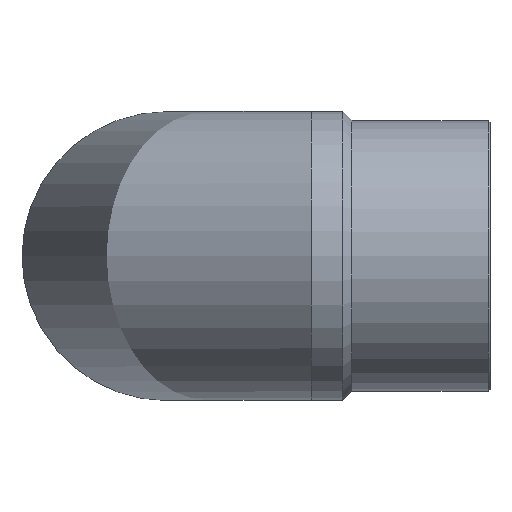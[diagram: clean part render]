
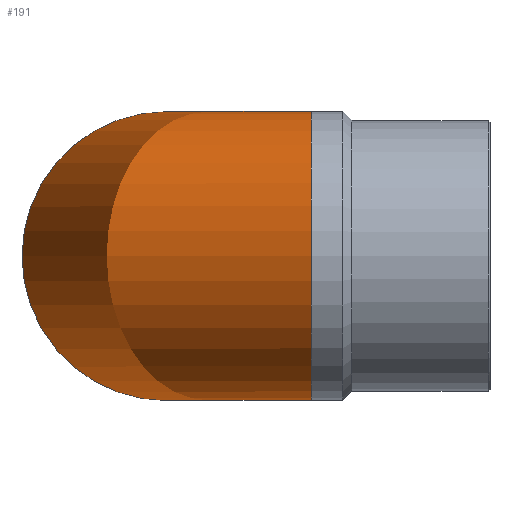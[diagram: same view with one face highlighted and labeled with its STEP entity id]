
A CAD part, top view. The second image highlights one B-rep face of the part: STEP entity #191.
In plain terms, the highlighted toroidal (fillet/blend) face has major radius 150 mm and minor radius 149.5 mm.
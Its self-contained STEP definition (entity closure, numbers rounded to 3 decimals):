
#20=TOROIDAL_SURFACE('',#231,150.,149.5);
#59=ORIENTED_EDGE('',*,*,#77,.F.);
#60=ORIENTED_EDGE('',*,*,#79,.T.);
#77=EDGE_CURVE('',#96,#96,#114,.F.);
#79=EDGE_CURVE('',#98,#98,#116,.F.);
#96=VERTEX_POINT('',#312);
#98=VERTEX_POINT('',#318);
#114=CIRCLE('',#217,149.5);
#116=CIRCLE('',#221,149.5);
#142=EDGE_LOOP('',(#59));
#143=EDGE_LOOP('',(#60));
#169=FACE_BOUND('',#142,.T.);
#170=FACE_BOUND('',#143,.T.);
#191=ADVANCED_FACE('',(#169,#170),#20,.T.);
#217=AXIS2_PLACEMENT_3D('',#311,#256,#257);
#221=AXIS2_PLACEMENT_3D('',#317,#264,#265);
#231=AXIS2_PLACEMENT_3D('',#369,#284,#285);
#256=DIRECTION('',(-1.,0.,0.));
#257=DIRECTION('',(0.,0.,-1.));
#264=DIRECTION('',(0.,0.,-1.));
#265=DIRECTION('',(1.,0.,0.));
#284=DIRECTION('',(0.,1.,0.));
#285=DIRECTION('',(0.,0.,1.));
#311=CARTESIAN_POINT('',(150.,0.,335.));
#312=CARTESIAN_POINT('',(150.,0.,185.5));
#317=CARTESIAN_POINT('',(0.,0.,185.));
#318=CARTESIAN_POINT('',(149.5,0.,185.));
#369=CARTESIAN_POINT('',(150.,0.,185.));
